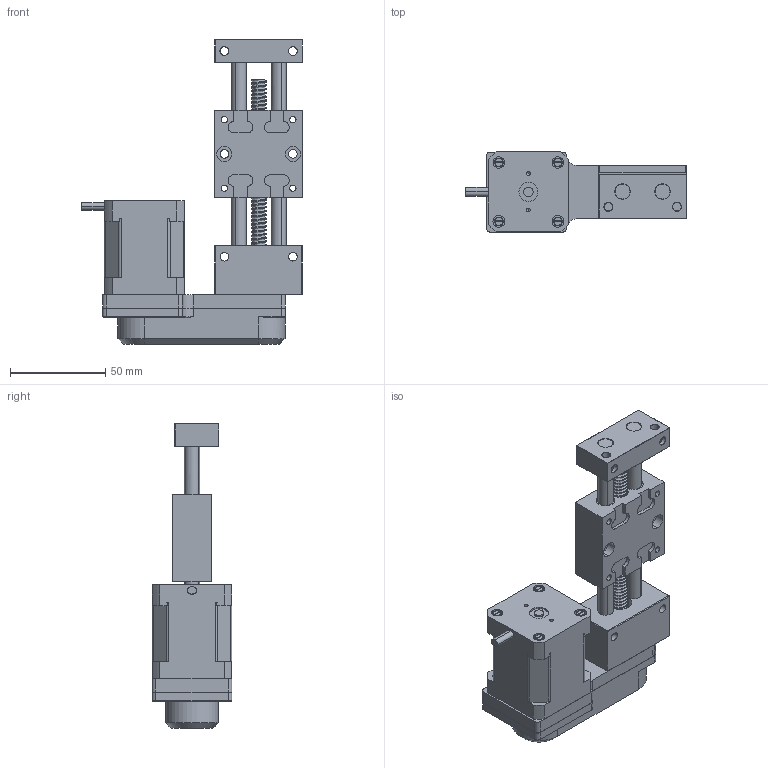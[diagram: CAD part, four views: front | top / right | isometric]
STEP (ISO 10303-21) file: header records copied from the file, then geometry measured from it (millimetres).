
FILE_DESCRIPTION (( 'STEP AP203' ), '1' );
FILE_NAME ('MPT5008-AS-M.STEP', '2015-12-11T10:05:05', ( '' ), ( '' ), 'SwSTEP 2.0', 'SolidWorks 2014', '' );
FILE_SCHEMA (( 'CONFIG_CONTROL_DESIGN' ));
Length unit declared in the file: millimetre
Products named in the file (5): MPT5008-000-01-Festteil-AS; MPT08-000-02-Schlitten-komplett; MPT0812-002-Antrieb seitlich; Schrittmotor-ohne-Steuerung-NSM17_n_Standard; MPT5008-AS-M
Assembly tree (4 placements, depth 2):
  MPT5008-AS-M
    MPT5008-000-01-Festteil-AS
    MPT08-000-02-Schlitten-komplett
    MPT0812-002-Antrieb seitlich
    Schrittmotor-ohne-Steuerung-NSM17_n_Standard
Bounding box: 116 x 42 x 160 mm (x, y, z)
Volume: 214874.1 mm3; surface area: 79328.9 mm2
Topology: 7 solids, 23 shells, 1848 faces, 4859 edges, 3096 vertices
Faces by surface type: plane 805, cylinder 732, cone 193, bspline 100, torus 18
Entity records: 94763 total; most frequent: CARTESIAN_POINT 49053, ORIENTED_EDGE 9658, DIRECTION 9344, EDGE_CURVE 4829, AXIS2_PLACEMENT_3D 3394, VERTEX_POINT 3096, LINE 2556, VECTOR 2556
